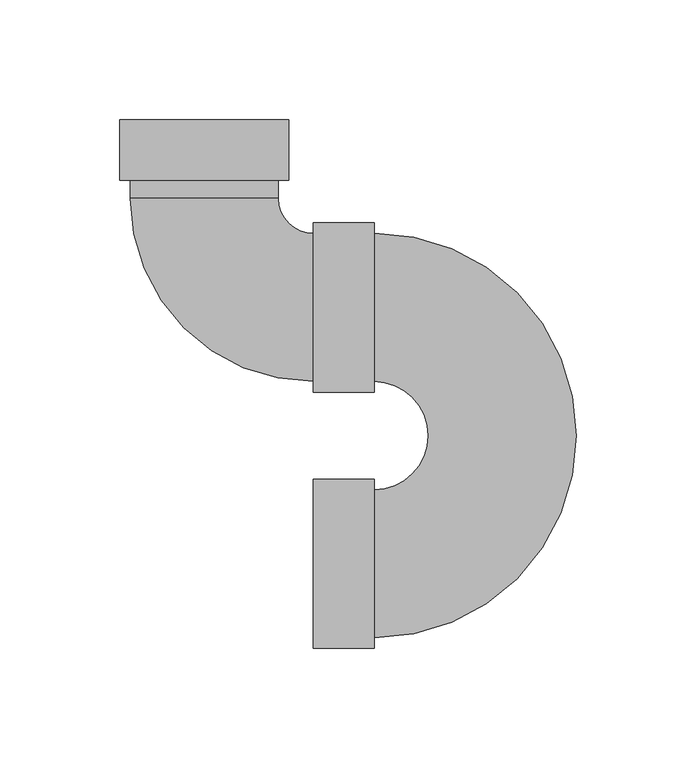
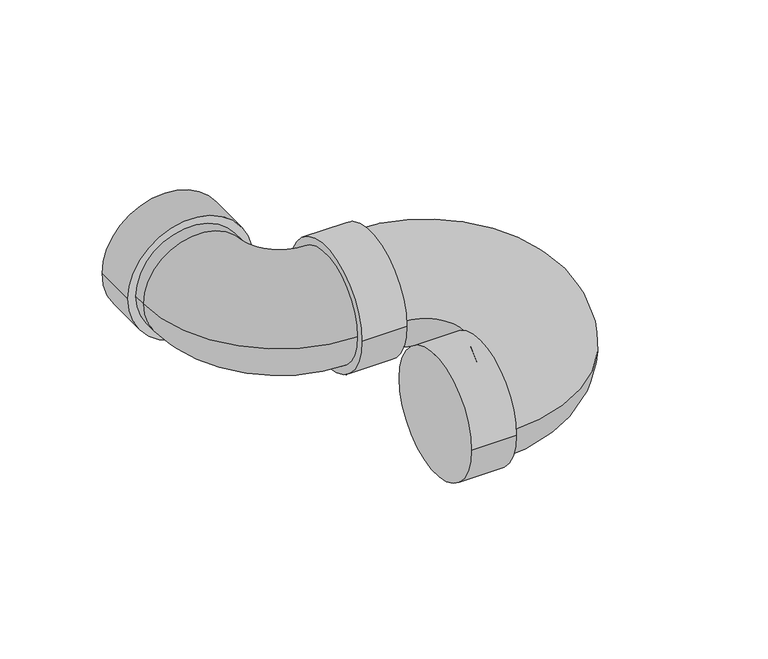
"""IFC4 building model written with IfcOpenShell, lengths in millimetres: pipe fitting geometry, M_Sifón P - PVC - Serie 40 - DWV : Estándar."""

from ifc_helpers import new_model, si_unit, point, frame, origin, place, context, project, spatial, circle_curve, ellipse_curve, trimmed, source, transform, mapped, element, save
from ifc_brep_helpers import plane_surface, cylinder_surface, revolved_surface, advanced_brep


def pipe_fitting_38e3fb49(model_context):
    return source(origin(), model_context, "Body", "AdvancedBrep", [
        advanced_brep(
        [(-35.4191094, 185.9002187, 0.0), (35.4191094, 185.9002187, 0.0), (-35.4191094, 160.5002187, 0.0), (35.4191094, 160.5002187, 0.0), (-30.9800625, 160.5002187, 0.0), (30.9800625, 160.5002187, 0.0), (30.9800625, 152.987375, 0.0), (-30.9800625, 152.987375, 0.0), (45.72, 76.2873125, 0.0), (45.72, 138.2474375, 0.0), (71.12, -30.9800625, 0.0), (71.12, 138.2474375, 0.0), (71.12, 76.2873125, 0.0), (71.12, 30.9800625, 0.0), (45.72, 71.8482656, 0.0), (45.72, 142.6864844, 0.0), (71.12, 71.8482656, 0.0), (71.12, 142.6864844, 0.0), (45.72, -35.4191094, 0.0), (45.72, 35.4191094, 0.0), (71.12, -35.4191094, 0.0), (71.12, 35.4191094, 0.0)],
        [
            (0, 1, circle_curve(frame((0.0, 185.9002187, 0.0), z_axis=(0.0, 1.0, 0.0), x_axis=(1.0, 0.0, 0.0)), 35.4191094)),
            (1, 0, circle_curve(frame((0.0, 185.9002187, 0.0), z_axis=(0.0, 1.0, 0.0), x_axis=(1.0, 0.0, 0.0)), 35.4191094)),
            (2, 3, circle_curve(frame((0.0, 160.5002187, 0.0), z_axis=(0.0, -1.0, 0.0), x_axis=(1.0, 0.0, 0.0)), 35.4191094)),
            (3, 2, circle_curve(frame((0.0, 160.5002187, 0.0), z_axis=(0.0, -1.0, 0.0), x_axis=(1.0, 0.0, 0.0)), 35.4191094)),
            (4, 5, circle_curve(frame((0.0, 160.5002187, 0.0), z_axis=(0.0, 1.0, 0.0), x_axis=(1.0, 0.0, 0.0)), 30.9800625)),
            (5, 4, circle_curve(frame((0.0, 160.5002187, 0.0), z_axis=(0.0, 1.0, 0.0), x_axis=(1.0, 0.0, 0.0)), 30.9800625)),
            (0, 2),
            (3, 1),
            (6, 7, circle_curve(frame((0.0, 152.987375, 0.0), z_axis=(0.0, -1.0, 0.0), x_axis=(1.0, 0.0, 0.0)), 30.9800625)),
            (7, 8, circle_curve(frame((45.72, 152.987375, 0.0), z_axis=(0.0, 0.0, 1.0), x_axis=(-1.0, 0.0, 0.0)), 76.7000625)),
            (8, 9, circle_curve(frame((45.72, 107.267375, 0.0), z_axis=(-1.0, 0.0, 0.0), x_axis=(0.0, 1.0, 0.0)), 30.9800625)),
            (9, 6, circle_curve(frame((45.72, 152.987375, 0.0), z_axis=(0.0, 0.0, -1.0), x_axis=(-1.0, 0.0, 0.0)), 14.7399375)),
            (7, 6, circle_curve(frame((0.0, 152.987375, 0.0), z_axis=(0.0, -1.0, 0.0), x_axis=(1.0, 0.0, 0.0)), 30.9800625)),
            (9, 8, circle_curve(frame((45.72, 107.267375, 0.0), z_axis=(-1.0, 0.0, 0.0), x_axis=(0.0, 1.0, 0.0)), 30.9800625)),
            (10, 11, circle_curve(frame((71.12, 53.6336875, 0.0), z_axis=(0.0, 0.0, 1.0), x_axis=(0.0, 1.0, 0.0)), 84.61375)),
            (11, 12, circle_curve(frame((71.12, 107.267375, 0.0), z_axis=(1.0, 0.0, 0.0), x_axis=(0.0, 1.0, 0.0)), 30.9800625)),
            (12, 13, circle_curve(frame((71.12, 53.6336875, 0.0), z_axis=(0.0, 0.0, -1.0), x_axis=(0.0, 1.0, 0.0)), 22.653625)),
            (13, 10, circle_curve(frame((71.12, 0.0, 0.0), z_axis=(1.0, 0.0, 0.0), x_axis=(0.0, -1.0, 0.0)), 30.9800625)),
            (10, 13, circle_curve(frame((71.12, 0.0, 0.0), z_axis=(1.0, 0.0, 0.0), x_axis=(0.0, -1.0, 0.0)), 30.9800625)),
            (12, 11, circle_curve(frame((71.12, 107.267375, 0.0), z_axis=(1.0, 0.0, 0.0), x_axis=(0.0, 1.0, 0.0)), 30.9800625)),
            (14, 15, circle_curve(frame((45.72, 107.267375, 0.0), z_axis=(-1.0, 0.0, 0.0), x_axis=(0.0, 1.0, 0.0)), 35.4191094)),
            (15, 14, circle_curve(frame((45.72, 107.267375, 0.0), z_axis=(-1.0, 0.0, 0.0), x_axis=(0.0, 1.0, 0.0)), 35.4191094)),
            (16, 17, circle_curve(frame((71.12, 107.267375, 0.0), z_axis=(1.0, 0.0, 0.0), x_axis=(0.0, 1.0, 0.0)), 35.4191094)),
            (17, 16, circle_curve(frame((71.12, 107.267375, 0.0), z_axis=(1.0, 0.0, 0.0), x_axis=(0.0, 1.0, 0.0)), 35.4191094)),
            (14, 16),
            (17, 15),
            (18, 19, circle_curve(frame((45.72, 0.0, 0.0), z_axis=(-1.0, 0.0, 0.0), x_axis=(0.0, 1.0, 0.0)), 35.4191094)),
            (19, 18, circle_curve(frame((45.72, 0.0, 0.0), z_axis=(-1.0, 0.0, 0.0), x_axis=(0.0, 1.0, 0.0)), 35.4191094)),
            (20, 21, circle_curve(frame((71.12, 0.0, 0.0), z_axis=(1.0, 0.0, 0.0), x_axis=(0.0, 1.0, 0.0)), 35.4191094)),
            (21, 20, circle_curve(frame((71.12, 0.0, 0.0), z_axis=(1.0, 0.0, 0.0), x_axis=(0.0, 1.0, 0.0)), 35.4191094)),
            (18, 20),
            (21, 19),
            (6, 5),
            (4, 7),
        ],
        [
            plane_surface(frame((0.0, 185.9002187, 0.0), z_axis=(0.0, 1.0, 0.0), x_axis=(0.0, 0.0, 1.0))),
            plane_surface(frame((0.0, 160.5002187, 0.0), z_axis=(0.0, -1.0, 0.0), x_axis=(0.0, 0.0, 1.0))),
            cylinder_surface(frame((0.0, 185.9002187, 0.0), z_axis=(0.0, 1.0, 0.0), x_axis=(1.0, 0.0, 0.0)), 35.4191094),
            revolved_surface(trimmed(ellipse_curve(frame((0.0, 152.987375, 0.0), z_axis=(0.0, 1.0, 0.0), x_axis=(1.0, 0.0, 0.0)), 30.9800625, 30.9800625), [point((-30.9800625, 152.987375, 0.0))], [point((30.9800625, 152.987375, 0.0))], True, "CARTESIAN"), (45.72, 152.987375, 0.0), (0.0, 0.0, 1.0)),
            revolved_surface(trimmed(ellipse_curve(frame((0.0, 152.987375, 0.0), z_axis=(0.0, 1.0, 0.0), x_axis=(1.0, 0.0, 0.0)), 30.9800625, 30.9800625), [point((30.9800625, 152.987375, 0.0))], [point((-30.9800625, 152.987375, 0.0))], True, "CARTESIAN"), (45.72, 152.987375, 0.0), (0.0, 0.0, 1.0)),
            revolved_surface(trimmed(ellipse_curve(frame((71.12, 107.267375, 0.0), z_axis=(-1.0, 0.0, 0.0), x_axis=(0.0, 1.0, 0.0)), 30.9800625, 30.9800625), [point((71.12, 76.2873125, 0.0))], [point((71.12, 138.2474375, 0.0))], True, "CARTESIAN"), (71.12, 53.6336875, 0.0), (0.0, 0.0, -1.0)),
            revolved_surface(trimmed(ellipse_curve(frame((71.12, 107.267375, 0.0), z_axis=(-1.0, 0.0, 0.0), x_axis=(0.0, 1.0, 0.0)), 30.9800625, 30.9800625), [point((71.12, 138.2474375, 0.0))], [point((71.12, 76.2873125, 0.0))], True, "CARTESIAN"), (71.12, 53.6336875, 0.0), (0.0, 0.0, -1.0)),
            plane_surface(frame((45.72, 107.267375, 0.0), z_axis=(-1.0, 0.0, 0.0), x_axis=(0.0, 0.0, 1.0))),
            plane_surface(frame((71.12, 107.267375, 0.0), z_axis=(1.0, 0.0, 0.0), x_axis=(0.0, 0.0, 1.0))),
            cylinder_surface(frame((45.72, 107.267375, 0.0), z_axis=(-1.0, 0.0, 0.0), x_axis=(0.0, 1.0, 0.0)), 35.4191094),
            plane_surface(frame((45.72, 0.0, 0.0), z_axis=(-1.0, 0.0, 0.0), x_axis=(0.0, 0.0, 1.0))),
            plane_surface(frame((71.12, 0.0, 0.0), z_axis=(1.0, 0.0, 0.0), x_axis=(0.0, 0.0, 1.0))),
            cylinder_surface(frame((45.72, 0.0, 0.0), z_axis=(-1.0, 0.0, 0.0), x_axis=(0.0, 1.0, 0.0)), 35.4191094),
            cylinder_surface(frame((0.0, 185.9002187, 0.0), z_axis=(0.0, 1.0, 0.0), x_axis=(1.0, 0.0, 0.0)), 30.9800625),
        ],
        [
            (0, [[1, 2]]),
            (1, [[3, 4], [5, 6]]),
            (2, [[-1, 7, -4, 8]]),
            (2, [[-2, -8, -3, -7]]),
            (3, [[9, 10, 11, 12]]),
            (4, [[13, -12, 14, -10]]),
            (5, [[15, 16, 17, 18]]),
            (6, [[-15, 19, -17, 20]]),
            (7, [[21, 22], [-11, -14]]),
            (8, [[23, 24], [-16, -20]]),
            (9, [[-21, 25, -24, 26]]),
            (9, [[-22, -26, -23, -25]]),
            (10, [[27, 28]]),
            (11, [[29, 30], [-18, -19]]),
            (12, [[-27, 31, -30, 32]]),
            (12, [[-28, -32, -29, -31]]),
            (13, [[-9, 33, -5, 34]]),
            (13, [[-13, -34, -6, -33]]),
        ],
    ),
    ])


if __name__ == "__main__":
    model = new_model("IFC4")
    model_context = context("Model", 3, world=origin())
    ifc_project = project(units=[si_unit("LENGTHUNIT", "METRE", prefix="MILLI")], contexts=[model_context])
    site = spatial("IfcSite", under=ifc_project)
    building = spatial("IfcBuilding", under=site)
    placement = place(None, origin())
    pipe_fitting_shape = pipe_fitting_38e3fb49(model_context)
    element("IfcPipeFitting", 1, ObjectType="M_Sifón P - PVC - Serie 40 - DWV : Estándar", at=placement, inside=building, context=model_context, shape_type="MappedRepresentation", body=[
        mapped(pipe_fitting_shape, transform((0.0, 0.0, 0.0), x_axis=(1.0, 0.0, 0.0), y_axis=(0.0, 1.0, 0.0), z_axis=(0.0, 0.0, 1.0))),
    ])
    save(model, "model.ifc")
